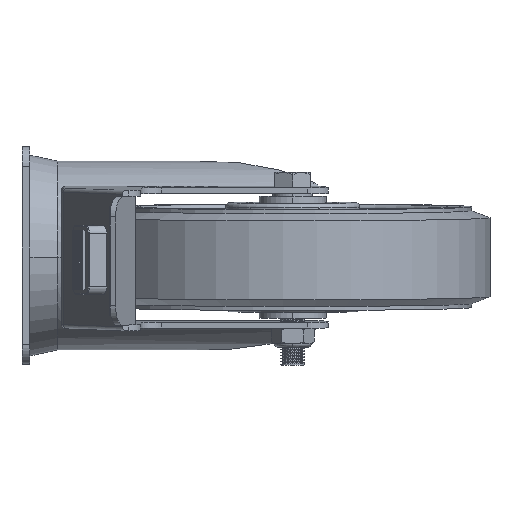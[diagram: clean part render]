
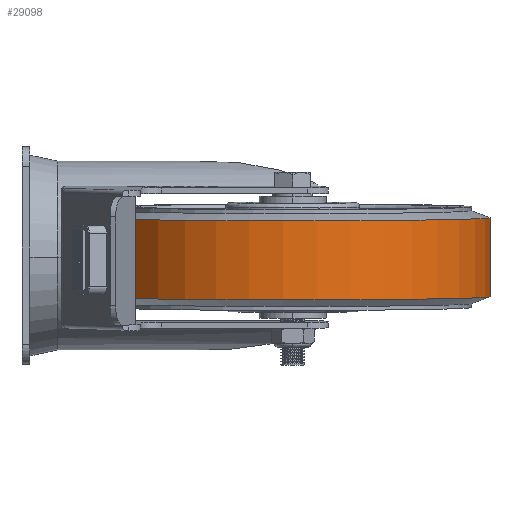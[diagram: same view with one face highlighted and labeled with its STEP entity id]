
A CAD part, left-side view. The second image highlights one B-rep face of the part: STEP entity #29098.
In plain terms, the highlighted cylindrical face has radius 100 mm (diameter 200 mm), a partial arc.
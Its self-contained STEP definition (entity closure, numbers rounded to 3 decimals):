
#2177 = VERTEX_POINT ( 'NONE', #5041 ) ;
#2431 = ORIENTED_EDGE ( 'NONE', *, *, #44654, .F. ) ;
#3535 = AXIS2_PLACEMENT_3D ( 'NONE', #30853, #20475, #9411 ) ;
#5041 = CARTESIAN_POINT ( 'NONE',  ( 0., -20., 100. ) ) ;
#5602 = CIRCLE ( 'NONE', #28921, 100. ) ;
#6098 = CYLINDRICAL_SURFACE ( 'NONE', #3535, 100. ) ;
#6585 = DIRECTION ( 'NONE',  ( 0., 0., -1. ) ) ;
#7264 = VERTEX_POINT ( 'NONE', #27151 ) ;
#7655 = VERTEX_POINT ( 'NONE', #17436 ) ;
#8459 = VECTOR ( 'NONE', #46221, 1000. ) ;
#9278 = DIRECTION ( 'NONE',  ( 0., -1., 0. ) ) ;
#9411 = DIRECTION ( 'NONE',  ( 0., 0., -1. ) ) ;
#9954 = LINE ( 'NONE', #38438, #8459 ) ;
#13512 = DIRECTION ( 'NONE',  ( 0., 0., -1. ) ) ;
#13942 = EDGE_CURVE ( 'NONE', #2177, #7264, #5602, .T. ) ;
#14316 = AXIS2_PLACEMENT_3D ( 'NONE', #30737, #9278, #13512 ) ;
#14520 = EDGE_CURVE ( 'NONE', #7655, #7264, #30255, .T. ) ;
#15801 = EDGE_CURVE ( 'NONE', #38958, #7655, #37632, .T. ) ;
#17436 = CARTESIAN_POINT ( 'NONE',  ( 0., 20., -100. ) ) ;
#20475 = DIRECTION ( 'NONE',  ( 0., -1., 0. ) ) ;
#20676 = ORIENTED_EDGE ( 'NONE', *, *, #13942, .F. ) ;
#23962 = ORIENTED_EDGE ( 'NONE', *, *, #15801, .T. ) ;
#24513 = CARTESIAN_POINT ( 'NONE',  ( 0., -20., 0. ) ) ;
#24685 = ORIENTED_EDGE ( 'NONE', *, *, #14520, .T. ) ;
#24742 = DIRECTION ( 'NONE',  ( 0., -1., 0. ) ) ;
#27151 = CARTESIAN_POINT ( 'NONE',  ( 0., -20., -100. ) ) ;
#28921 = AXIS2_PLACEMENT_3D ( 'NONE', #24513, #24742, #6585 ) ;
#29098 = ADVANCED_FACE ( 'NONE', ( #37904 ), #6098, .T. ) ;
#30255 = LINE ( 'NONE', #33555, #33819 ) ;
#30737 = CARTESIAN_POINT ( 'NONE',  ( 0., 20., 0. ) ) ;
#30853 = CARTESIAN_POINT ( 'NONE',  ( 0., 0., 0. ) ) ;
#33555 = CARTESIAN_POINT ( 'NONE',  ( 0., 0., -100. ) ) ;
#33819 = VECTOR ( 'NONE', #37310, 1000. ) ;
#35403 = EDGE_LOOP ( 'NONE', ( #2431, #23962, #24685, #20676 ) ) ;
#37310 = DIRECTION ( 'NONE',  ( 0., -1., 0. ) ) ;
#37632 = CIRCLE ( 'NONE', #14316, 100. ) ;
#37904 = FACE_OUTER_BOUND ( 'NONE', #35403, .T. ) ;
#38438 = CARTESIAN_POINT ( 'NONE',  ( 0., 0., 100. ) ) ;
#38958 = VERTEX_POINT ( 'NONE', #44045 ) ;
#44045 = CARTESIAN_POINT ( 'NONE',  ( 0., 20., 100. ) ) ;
#44654 = EDGE_CURVE ( 'NONE', #38958, #2177, #9954, .T. ) ;
#46221 = DIRECTION ( 'NONE',  ( 0., -1., 0. ) ) ;
